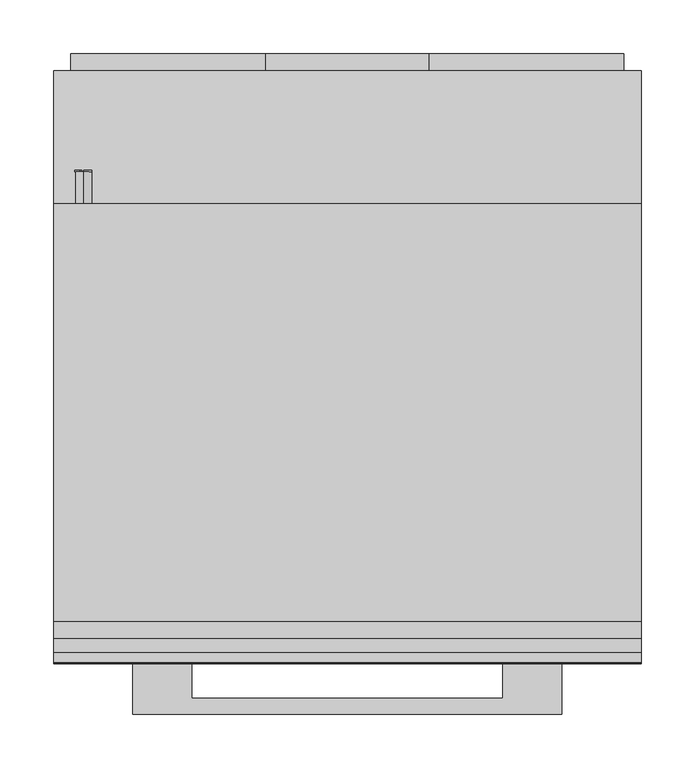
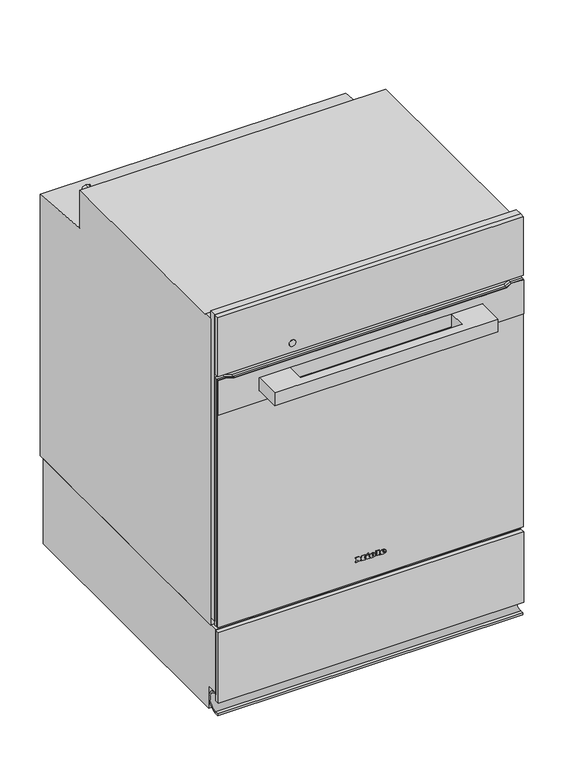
"""IFC4 building model written with IfcOpenShell, lengths in millimetres: proxy geometry, 11790260_CH_DGC7450-55_EDST-CLS : 22745092_CH_11790260_DGC7450-55_EDST-CLS."""

import ifcopenshell
import ifcopenshell.guid

model = None  # the IFC model being written
_history = None  # IfcOwnerHistory: only IFC2X3 demands one
_inside = {}  # id of a spatial element -> (the spatial element, [elements in it])
_under = {}  # id of a project, library or spatial element -> (it, [spatial elements below it])
_declared = {}  # id of a project -> (the project, [libraries it declares])
_typed = {}  # id of a type object -> (the type object, [elements of that type])
_made_of = {}  # id of a material, layer set ... -> (it, [elements and type objects made of it])


def new_model(schema):
    """Start an empty IFC model of exactly this schema.

    Asked for "IFC4X3", IfcOpenShell would pick the latest addendum, in which some entities
    have other attributes; the version numbers below select the first issue.
    IFC2X3 requires an IfcOwnerHistory on every rooted entity: one is made here for all.
    """
    global model, _history
    if schema == "IFC4X3":
        model = ifcopenshell.file(schema_version=(4, 3, 0, 0))
    else:
        model = ifcopenshell.file(schema=schema)
    _inside.clear()
    _under.clear()
    _declared.clear()
    _typed.clear()
    _made_of.clear()
    _history = None
    if model.schema == "IFC2X3":
        org = make("IfcOrganization", Name="unknown")
        user = make(
            "IfcPersonAndOrganization",
            ThePerson=make("IfcPerson", FamilyName="unknown"),
            TheOrganization=org,
        )
        app = make(
            "IfcApplication",
            ApplicationDeveloper=org,
            Version="unknown",
            ApplicationFullName="unknown",
            ApplicationIdentifier="unknown",
        )
        _history = make(
            "IfcOwnerHistory",
            OwningUser=user,
            OwningApplication=app,
            ChangeAction="ADDED",
            CreationDate=0,
        )
    return model


def make(cls, **values):
    """One entity of the class cls with the attributes given. An attribute that is None is left unset."""
    return model.create_entity(
        cls, **{name: value for name, value in values.items() if value is not None}
    )


def rooted(cls, **values):
    """An entity with a GlobalId (a new one), such as an element, a storey or a relation."""
    return make(cls, GlobalId=ifcopenshell.guid.new(), OwnerHistory=_history, **values)


def si_unit(unit_type, name, prefix=None):
    """IfcSIUnit, for example si_unit("LENGTHUNIT", "METRE", prefix="MILLI")."""
    return make("IfcSIUnit", UnitType=unit_type, Prefix=prefix, Name=name)


def assignment(units):
    """IfcUnitAssignment: the units of a project."""
    return None if units is None else make("IfcUnitAssignment", Units=units)


def point(xyz):
    """IfcCartesianPoint."""
    return None if xyz is None else make("IfcCartesianPoint", Coordinates=xyz)


def direction(xyz):
    """IfcDirection."""
    return None if xyz is None else make("IfcDirection", DirectionRatios=xyz)


def frame(location, z_axis=None, x_axis=None):
    """IfcAxis2Placement3D, a coordinate frame: its origin and axes. An axis left out is left unset."""
    return make(
        "IfcAxis2Placement3D",
        Location=point(location),
        Axis=direction(z_axis),
        RefDirection=direction(x_axis),
    )


def frame_2d(location, x_axis=None):
    """IfcAxis2Placement2D, a coordinate frame in the plane: its origin and x axis."""
    return make(
        "IfcAxis2Placement2D", Location=point(location), RefDirection=direction(x_axis)
    )


def origin():
    """The frame at (0, 0, 0) with its axes left unset."""
    return frame((0.0, 0.0, 0.0))


def place(relative_to, where):
    """IfcLocalPlacement: puts the frame where relative to a parent placement (None: the world)."""
    return make(
        "IfcLocalPlacement", PlacementRelTo=relative_to, RelativePlacement=where
    )


def context(
    kind, dimensions, precision=None, world=None, true_north=None, identifier=None
):
    """IfcGeometricRepresentationContext, for example the 3D "Model" context."""
    return make(
        "IfcGeometricRepresentationContext",
        ContextIdentifier=identifier,
        ContextType=kind,
        CoordinateSpaceDimension=dimensions,
        Precision=precision,
        WorldCoordinateSystem=world,
        TrueNorth=true_north,
    )


def project(units=None, contexts=None):
    """IfcProject with its units and contexts."""
    return rooted(
        "IfcProject",
        Name="project",
        RepresentationContexts=contexts,
        UnitsInContext=assignment(units),
    )


def spatial(cls, under=None, at=None, **own):
    """A site, building, storey or space (cls), placed at a placement, below another one or the project."""
    s = rooted(cls, ObjectPlacement=at, **own)
    if under is not None:
        _under.setdefault(under.id(), (under, []))[1].append(s)
    return s


def polyline(points):
    """IfcPolyline through the points."""
    return make("IfcPolyline", Points=[point(p) for p in points])


def circle_curve(where, radius):
    """IfcCircle in the frame where."""
    return make("IfcCircle", Position=where, Radius=radius)


def ellipse_curve(where, semi_axis1, semi_axis2):
    """IfcEllipse in the frame where."""
    return make(
        "IfcEllipse", Position=where, SemiAxis1=semi_axis1, SemiAxis2=semi_axis2
    )


def trimmed(basis, trim1, trim2, sense, master):
    """IfcTrimmedCurve: the piece of a basis curve between two trims."""
    return make(
        "IfcTrimmedCurve",
        BasisCurve=basis,
        Trim1=trim1,
        Trim2=trim2,
        SenseAgreement=sense,
        MasterRepresentation=master,
    )


def segment(curve, same_sense, transition):
    """IfcCompositeCurveSegment."""
    return make(
        "IfcCompositeCurveSegment",
        Transition=transition,
        SameSense=same_sense,
        ParentCurve=curve,
    )


def composite_curve(segments, self_intersect=None):
    """IfcCompositeCurve: segments joined end to end."""
    return make("IfcCompositeCurve", Segments=segments, SelfIntersect=self_intersect)


def outline(outer, holes=None, kind="AREA"):
    """IfcArbitraryClosedProfileDef: a profile drawn as a closed curve; with holes, ...WithVoids."""
    if holes is None:
        return make("IfcArbitraryClosedProfileDef", ProfileType=kind, OuterCurve=outer)
    return make(
        "IfcArbitraryProfileDefWithVoids",
        ProfileType=kind,
        OuterCurve=outer,
        InnerCurves=holes,
    )


def extrude(swept, where, along, depth):
    """IfcExtrudedAreaSolid: the profile swept, set in the frame where, extruded along a direction by depth."""
    return make(
        "IfcExtrudedAreaSolid",
        SweptArea=swept,
        Position=where,
        ExtrudedDirection=direction(along),
        Depth=depth,
    )


def faces_of(points, faces, orient=None, outer=None):
    """IfcFace entities. A face is a list of loops; a loop is a list of indices into points, from 0.

    orient and outer hold one flag for each loop. By default every Orientation is true, the
    first loop of a face is its IfcFaceOuterBound and the others are IfcFaceBound.
    """
    made = []
    for i, loops in enumerate(faces):
        bounds = []
        for j, loop in enumerate(loops):
            is_outer = j == 0 if outer is None else outer[i][j]
            bounds.append(
                make(
                    "IfcFaceOuterBound" if is_outer else "IfcFaceBound",
                    Bound=make("IfcPolyLoop", Polygon=[points[k] for k in loop]),
                    Orientation=True if orient is None else orient[i][j],
                )
            )
        made.append(make("IfcFace", Bounds=bounds))
    return made


def faceted_brep(points, faces, orient=None, outer=None, voids=None):
    """IfcFacetedBrep: a solid bounded by flat faces; with voids (closed shells), ...WithVoids."""
    shared = [point(p) for p in points]
    hull = make("IfcClosedShell", CfsFaces=faces_of(shared, faces, orient, outer))
    if voids is None:
        return make("IfcFacetedBrep", Outer=hull)
    return make(
        "IfcFacetedBrepWithVoids",
        Outer=hull,
        Voids=[
            make(cls, CfsFaces=faces_of(shared, fs, o, b)) for cls, fs, o, b in voids
        ],
    )


def shape(context_of_items, identifier, shape_type, items):
    """IfcShapeRepresentation: the items that make up one representation, for example the "Body"."""
    return make(
        "IfcShapeRepresentation",
        ContextOfItems=context_of_items,
        RepresentationIdentifier=identifier,
        RepresentationType=shape_type,
        Items=items,
    )


def source(mapping_origin, context_of_items, identifier, shape_type, items):
    """IfcRepresentationMap: a shape defined once, which mapped items show again and again."""
    return make(
        "IfcRepresentationMap",
        MappingOrigin=mapping_origin,
        MappedRepresentation=shape(context_of_items, identifier, shape_type, items),
    )


def transform(
    local_origin,
    x_axis=None,
    y_axis=None,
    z_axis=None,
    scale=None,
    scale2=None,
    scale3=None,
    uniform=True,
):
    """IfcCartesianTransformationOperator3D, or its non-uniform kind. x_axis, y_axis, z_axis: its Axis1, 2, 3."""
    if uniform:
        return make(
            "IfcCartesianTransformationOperator3D",
            Axis1=direction(x_axis),
            Axis2=direction(y_axis),
            LocalOrigin=point(local_origin),
            Scale=scale,
            Axis3=direction(z_axis),
        )
    return make(
        "IfcCartesianTransformationOperator3DnonUniform",
        Axis1=direction(x_axis),
        Axis2=direction(y_axis),
        LocalOrigin=point(local_origin),
        Scale=scale,
        Axis3=direction(z_axis),
        Scale2=scale2,
        Scale3=scale3,
    )


def mapped(mapping_source, mapping_target):
    """IfcMappedItem: shows the shape of a source again, moved by a transform."""
    return make(
        "IfcMappedItem", MappingSource=mapping_source, MappingTarget=mapping_target
    )


def made_of(thing, what):
    """Note that an element or type object is made of a material, layer set ...; save() writes the relation."""
    if what is not None:
        _made_of.setdefault(what.id(), (what, []))[1].append(thing)
    return thing


def element(
    cls,
    number,
    at=None,
    inside=None,
    cuts=None,
    type_object=None,
    material=None,
    context=None,
    identifier="Body",
    shape_type=None,
    held_by="IfcProductDefinitionShape",
    body=None,
    shapes=None,
    **own,
):
    """One element of the class cls, such as IfcWall. Its Tag is "e" and its number.

    at: its placement. inside: the storey or other place that contains it. cuts: it is an
    opening in that element (IfcRelVoidsElement). A single representation is given by context,
    identifier, shape_type and body (its items); several are given by shapes. held_by: the class
    of the entity that holds the representations. save() writes the other relations.
    """
    e = rooted(cls, Tag="e%d" % number, ObjectPlacement=at, **own)
    if body is not None:
        shapes = [shape(context, identifier, shape_type, body)]
    if shapes is not None:
        e.Representation = make(held_by, Representations=shapes)
    if inside is not None:
        _inside.setdefault(inside.id(), (inside, []))[1].append(e)
    if cuts is not None:
        rooted(
            "IfcRelVoidsElement", RelatingBuildingElement=cuts, RelatedOpeningElement=e
        )
    if type_object is not None:
        _typed.setdefault(type_object.id(), (type_object, []))[1].append(e)
    return made_of(e, material)


def aggregate(whole, parts):
    """IfcRelAggregates: a whole, such as a stair, and the parts it consists of."""
    return rooted("IfcRelAggregates", RelatingObject=whole, RelatedObjects=parts)


def save(model, path):
    """Write the relations noted so far, then the file.

    IfcRelAggregates (storeys below a building ...), IfcRelContainedInSpatialStructure (elements
    in a storey), IfcRelDefinesByType, IfcRelAssociatesMaterial and IfcRelDeclares: one each for
    every whole, place, type object, material and project.
    """
    for whole, parts in _under.values():
        aggregate(whole, parts)
    for where, things in _inside.values():
        rooted(
            "IfcRelContainedInSpatialStructure",
            RelatedElements=things,
            RelatingStructure=where,
        )
    for kind, things in _typed.values():
        rooted("IfcRelDefinesByType", RelatedObjects=things, RelatingType=kind)
    for what, things in _made_of.values():
        rooted("IfcRelAssociatesMaterial", RelatedObjects=things, RelatingMaterial=what)
    for by, libraries in _declared.values():
        rooted("IfcRelDeclares", RelatingContext=by, RelatedDefinitions=libraries)
    model.write(path)


def plane_surface(at):
    """IfcPlane: the flat surface through the origin of the frame at, square to its z axis."""
    return make("IfcPlane", Position=at)


def cylinder_surface(at, radius):
    """IfcCylindricalSurface: all points at the distance radius from the z axis of the frame at."""
    return make("IfcCylindricalSurface", Position=at, Radius=radius)


def revolved_surface(curve, axis_point, axis_direction):
    """IfcSurfaceOfRevolution: the curve turned about the line through axis_point along axis_direction."""
    return make(
        "IfcSurfaceOfRevolution",
        SweptCurve=make("IfcArbitraryOpenProfileDef", ProfileType="CURVE", Curve=curve),
        AxisPosition=make("IfcAxis1Placement", Location=point(axis_point), Axis=direction(axis_direction)),
    )


def extruded_surface(curve, direction_of_extrusion, depth):
    """IfcSurfaceOfLinearExtrusion: the curve pushed along a direction by depth."""
    return make(
        "IfcSurfaceOfLinearExtrusion",
        SweptCurve=make("IfcArbitraryOpenProfileDef", ProfileType="CURVE", Curve=curve),
        ExtrudedDirection=direction(direction_of_extrusion),
        Depth=depth,
    )


def advanced_brep(points, edges, surfaces, faces):
    """IfcAdvancedBrep: a solid bounded by faces that lie on surfaces and meet in shared edges.

    An edge is (start, end): straight between two places in points (the first is 0);
    or (start, end, curve); or (start, end, curve, False) where it runs against its curve.
    A face is (place in surfaces, loops), or (place, loops, False) where it looks against
    its surface's normal. A loop lists edges by number (the first is 1), with a minus sign
    where the edge is run from its end to its start. The first loop is the outer one.
    """
    corners = [point(p) for p in points]
    vertices = [make("IfcVertexPoint", VertexGeometry=c) for c in corners]
    made = []
    for start, end, *more in edges:
        made.append(
            make(
                "IfcEdgeCurve",
                EdgeStart=vertices[start],
                EdgeEnd=vertices[end],
                EdgeGeometry=more[0] if more else make("IfcPolyline", Points=[corners[start], corners[end]]),
                SameSense=more[1] if len(more) > 1 else True,
            )
        )
    hull = []
    for where, loops, *sense in faces:
        bounds = []
        for j, loop in enumerate(loops):
            ring = [make("IfcOrientedEdge", EdgeElement=made[abs(k) - 1], Orientation=k > 0) for k in loop]
            bounds.append(
                make(
                    "IfcFaceOuterBound" if j == 0 else "IfcFaceBound",
                    Bound=make("IfcEdgeLoop", EdgeList=ring),
                    Orientation=True,
                )
            )
        hull.append(make("IfcAdvancedFace", Bounds=bounds, FaceSurface=surfaces[where], SameSense=sense[0] if sense else True))
    return make("IfcAdvancedBrep", Outer=make("IfcClosedShell", CfsFaces=hull))


def specialty_equipment_7ac008b5(model_context):
    return source(origin(), model_context, "Body", "SolidModel", [
        extrude(outline(polyline([(-273.5, -15.3), (273.5, -15.3), (273.5, -23.3), (-273.5, -23.3), (-273.5, -15.3)])), frame((0.0, 0.0, 28.0), z_axis=(0.0, 0.0, 1.0), x_axis=(1.0, 0.0, 0.0)), (0.0, 0.0, 1.0), 133.5),
        extrude(outline(composite_curve([segment(polyline([(-15.3, 39.5), (-15.3, 42.0), (-13.3, 42.0)]), True, "CONTINUOUS"), segment(trimmed(circle_curve(frame_2d((-13.3, 23.0)), 19.0), [point((-13.3, 42.0))], [point((5.7, 23.0))], False, "CARTESIAN"), True, "CONTINUOUS"), segment(trimmed(circle_curve(frame_2d((-16.2470942, 23.0)), 21.9470942), [point((5.7, 23.0))], [point((2.0965309, 10.9506696))], False, "CARTESIAN"), True, "CONTINUOUS"), segment(trimmed(circle_curve(frame_2d((-13.3, 22.7225846)), 19.381206), [point((2.0965309, 10.9506696))], [point((-13.3, 3.3413786))], False, "CARTESIAN"), True, "CONTINUOUS"), segment(polyline([(-13.3, 3.3413786), (-21.3, 3.3413786), (-21.3, 6.5166751), (-13.9417749, 6.5166751)]), True, "CONTINUOUS"), segment(trimmed(circle_curve(frame_2d((-13.9417749, 23.0333249)), 16.5166498), [point((-13.9417749, 6.5166751))], [point((-12.6579007, 39.5))], True, "CARTESIAN"), True, "CONTINUOUS"), segment(polyline([(-12.6579007, 39.5), (-15.3, 39.5)]), True, "CONTINUOUS")], self_intersect=False)), frame((-273.5, 0.0, 0.0), z_axis=(1.0, 0.0, 0.0), x_axis=(0.0, 1.0, 0.0)), (0.0, 0.0, 1.0), 547.0),
        extrude(outline(polyline([(-15.3, 162.0), (520.7, 162.0), (520.7, 0.0), (6.7, 0.0), (6.7, 43.1784801), (-15.3, 43.1784801), (-15.3, 162.0)])), frame((-273.5, 0.0, 0.0), z_axis=(1.0, 0.0, 0.0), x_axis=(0.0, 1.0, 0.0)), (0.0, 0.0, 1.0), 547.0),
        advanced_brep(
        [(21.28, -23.0, 210.133), (21.28, -23.0, 211.042), (27.301, -23.0, 211.042), (16.825, -23.0, 211.042), (19.3, -23.0, 208.0), (27.148, -23.0, 210.133), (24.43, -23.0, 210.133), (22.288, -23.0, 209.125), (21.28, -23.0, 212.194), (21.28, -23.0, 213.175), (22.819, -23.0, 213.175), (22.819, -23.0, 212.194), (21.28, -22.0, 210.133), (22.288, -22.0, 209.125), (24.43, -22.0, 210.133), (27.148, -22.0, 210.133), (19.3, -22.0, 208.0), (16.825, -22.0, 211.042), (27.301, -22.0, 211.042), (21.28, -22.0, 211.042), (21.28, -22.0, 212.194), (22.819, -22.0, 212.194), (22.819, -22.0, 213.175), (21.28, -22.0, 213.175)],
        [
            (0, 1),
            (1, 2),
            (2, 3, ellipse_curve(frame((22.063, -23.0, 211.042), z_axis=(0.0, -1.0, 0.0), x_axis=(-1.0, 0.0, 0.0)), 5.238, 4.329)),
            (3, 4, circle_curve(frame((20.3080491, -23.0, 211.348), z_axis=(0.0, -1.0, 0.0), x_axis=(0.0, 0.0, -1.0)), 3.4964649)),
            (4, 5, circle_curve(frame((21.9581428, -23.0, 213.724), z_axis=(0.0, -1.0, 0.0), x_axis=(0.0, 0.0, -1.0)), 6.3110933)),
            (5, 6),
            (6, 7, circle_curve(frame((22.7279412, -23.0, 210.97), z_axis=(0.0, 1.0, 0.0), x_axis=(0.0, 0.0, -1.0)), 1.896727)),
            (7, 0, circle_curve(frame((22.288, -23.0, 210.133), z_axis=(0.0, 1.0, 0.0), x_axis=(0.0, 0.0, -1.0)), 1.008)),
            (8, 9),
            (9, 10, circle_curve(frame((22.0495, -23.0, 213.175), z_axis=(0.0, 1.0, 0.0), x_axis=(0.0, 0.0, -1.0)), 0.7695)),
            (10, 11),
            (11, 8),
            (12, 13, circle_curve(frame((22.288, -22.0, 210.133), z_axis=(0.0, -1.0, 0.0), x_axis=(0.0, 0.0, -1.0)), 1.008)),
            (13, 14, circle_curve(frame((22.7279412, -22.0, 210.97), z_axis=(0.0, -1.0, 0.0), x_axis=(0.0, 0.0, -1.0)), 1.896727)),
            (14, 15),
            (15, 16, circle_curve(frame((21.9581428, -22.0, 213.724), z_axis=(0.0, 1.0, 0.0), x_axis=(0.0, 0.0, -1.0)), 6.3110933)),
            (16, 17, circle_curve(frame((20.3080491, -22.0, 211.348), z_axis=(0.0, 1.0, 0.0), x_axis=(0.0, 0.0, -1.0)), 3.4964649)),
            (17, 18, ellipse_curve(frame((22.063, -22.0, 211.042), z_axis=(0.0, 1.0, 0.0), x_axis=(-1.0, 0.0, 0.0)), 5.238, 4.329)),
            (18, 19),
            (19, 12),
            (20, 21),
            (21, 22),
            (22, 23, circle_curve(frame((22.0495, -22.0, 213.175), z_axis=(0.0, -1.0, 0.0), x_axis=(0.0, 0.0, -1.0)), 0.7695)),
            (23, 20),
            (0, 12),
            (19, 1),
            (18, 2),
            (5, 15),
            (14, 6),
            (17, 3),
            (13, 7),
            (16, 4),
            (8, 20),
            (23, 9),
            (22, 10),
            (21, 11),
        ],
        [
            plane_surface(frame((21.28, -23.0, 211.042), z_axis=(0.0, -1.0, 0.0), x_axis=(0.0, 0.0, 1.0))),
            plane_surface(frame((21.28, -22.0, 211.042), z_axis=(0.0, 1.0, 0.0), x_axis=(0.0, 0.0, -1.0))),
            plane_surface(frame((21.28, -23.0, 210.133), z_axis=(1.0, 0.0, 0.0), x_axis=(0.0, 1.0, 0.0))),
            plane_surface(frame((21.28, -23.0, 211.042), z_axis=(0.0, 0.0, -1.0), x_axis=(0.0, 1.0, 0.0))),
            plane_surface(frame((27.148, -23.0, 210.133), z_axis=(0.0, 0.0, 1.0), x_axis=(0.0, 1.0, 0.0))),
            extruded_surface(trimmed(ellipse_curve(frame((22.063, -21.0, 211.042), z_axis=(0.0, -1.0, 0.0), x_axis=(-1.0, 0.0, 0.0)), 5.238, 4.329), [point((27.301, -21.0, 211.042))], [point((16.825, -21.0, 211.042))], True, "CARTESIAN"), (0.0, -1.0, 0.0), 1.0),
            revolved_surface(polyline([(22.7279412, -22.0, 209.073273), (22.7279412, -23.0, 209.073273)]), (22.7279412, -22.0, 210.97), (0.0, 1.0, 0.0)),
            revolved_surface(polyline([(22.288, -22.0, 209.125), (22.288, -23.0, 209.125)]), (22.288, -22.0, 210.133), (0.0, 1.0, 0.0)),
            cylinder_surface(frame((20.3080491, -22.0, 211.348), z_axis=(0.0, -1.0, 0.0), x_axis=(0.0, 0.0, -1.0)), 3.4964649),
            cylinder_surface(frame((21.9581428, -22.0, 213.724), z_axis=(0.0, -1.0, 0.0), x_axis=(0.0, 0.0, -1.0)), 6.3110933),
            plane_surface(frame((21.28, -23.0, 212.194), z_axis=(1.0, 0.0, 0.0), x_axis=(0.0, 1.0, 0.0))),
            revolved_surface(polyline([(22.0495, -22.0, 212.40550000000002), (22.0495, -23.0, 212.40550000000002)]), (22.0495, -22.0, 213.175), (0.0, 1.0, 0.0)),
            plane_surface(frame((22.819, -23.0, 213.175), z_axis=(-1.0, 0.0, 0.0), x_axis=(0.0, 1.0, 0.0))),
            plane_surface(frame((22.819, -23.0, 212.194), z_axis=(0.0, 0.0, 1.0), x_axis=(0.0, 1.0, 0.0))),
        ],
        [
            (0, [[1, 2, 3, 4, 5, 6, 7, 8], [9, 10, 11, 12]]),
            (1, [[13, 14, 15, 16, 17, 18, 19, 20], [21, 22, 23, 24]]),
            (2, [[-1, 25, -20, 26]]),
            (3, [[-2, -26, -19, 27]]),
            (4, [[-6, 28, -15, 29]]),
            (5, [[-3, -27, -18, 30]]),
            (6, [[-7, -29, -14, 31]]),
            (7, [[-8, -31, -13, -25]]),
            (8, [[-4, -30, -17, 32]]),
            (9, [[-5, -32, -16, -28]]),
            (10, [[-9, 33, -24, 34]]),
            (11, [[-10, -34, -23, 35]]),
            (12, [[-11, -35, -22, 36]]),
            (13, [[-12, -36, -21, -33]]),
        ],
    ),
        advanced_brep(
        [(2.497, -23.0, 210.133), (2.497, -23.0, 211.042), (8.518, -23.0, 211.042), (-1.958, -23.0, 211.042), (0.517, -23.0, 208.0), (8.365, -23.0, 210.133), (5.647, -23.0, 210.133), (3.505, -23.0, 209.125), (2.497, -23.0, 212.194), (2.497, -23.0, 213.175), (4.036, -23.0, 213.175), (4.036, -23.0, 212.194), (2.497, -22.0, 210.133), (3.505, -22.0, 209.125), (5.647, -22.0, 210.133), (8.365, -22.0, 210.133), (0.517, -22.0, 208.0), (-1.958, -22.0, 211.042), (8.518, -22.0, 211.042), (2.497, -22.0, 211.042), (2.497, -22.0, 212.194), (4.036, -22.0, 212.194), (4.036, -22.0, 213.175), (2.497, -22.0, 213.175)],
        [
            (0, 1),
            (1, 2),
            (2, 3, ellipse_curve(frame((3.28, -23.0, 211.042), z_axis=(0.0, -1.0, 0.0), x_axis=(-1.0, 0.0, 0.0)), 5.238, 4.329)),
            (3, 4, circle_curve(frame((1.5250491, -23.0, 211.348), z_axis=(0.0, -1.0, 0.0), x_axis=(0.0, 0.0, -1.0)), 3.4964649)),
            (4, 5, circle_curve(frame((3.1751428, -23.0, 213.724), z_axis=(0.0, -1.0, 0.0), x_axis=(0.0, 0.0, -1.0)), 6.3110933)),
            (5, 6),
            (6, 7, circle_curve(frame((3.9449412, -23.0, 210.97), z_axis=(0.0, 1.0, 0.0), x_axis=(0.0, 0.0, -1.0)), 1.896727)),
            (7, 0, circle_curve(frame((3.505, -23.0, 210.133), z_axis=(0.0, 1.0, 0.0), x_axis=(0.0, 0.0, -1.0)), 1.008)),
            (8, 9),
            (9, 10, circle_curve(frame((3.2665, -23.0, 213.175), z_axis=(0.0, 1.0, 0.0), x_axis=(0.0, 0.0, -1.0)), 0.7695)),
            (10, 11),
            (11, 8),
            (12, 13, circle_curve(frame((3.505, -22.0, 210.133), z_axis=(0.0, -1.0, 0.0), x_axis=(0.0, 0.0, -1.0)), 1.008)),
            (13, 14, circle_curve(frame((3.9449412, -22.0, 210.97), z_axis=(0.0, -1.0, 0.0), x_axis=(0.0, 0.0, -1.0)), 1.896727)),
            (14, 15),
            (15, 16, circle_curve(frame((3.1751428, -22.0, 213.724), z_axis=(0.0, 1.0, 0.0), x_axis=(0.0, 0.0, -1.0)), 6.3110933)),
            (16, 17, circle_curve(frame((1.5250491, -22.0, 211.348), z_axis=(0.0, 1.0, 0.0), x_axis=(0.0, 0.0, -1.0)), 3.4964649)),
            (17, 18, ellipse_curve(frame((3.28, -22.0, 211.042), z_axis=(0.0, 1.0, 0.0), x_axis=(-1.0, 0.0, 0.0)), 5.238, 4.329)),
            (18, 19),
            (19, 12),
            (20, 21),
            (21, 22),
            (22, 23, circle_curve(frame((3.2665, -22.0, 213.175), z_axis=(0.0, -1.0, 0.0), x_axis=(0.0, 0.0, -1.0)), 0.7695)),
            (23, 20),
            (0, 12),
            (19, 1),
            (18, 2),
            (5, 15),
            (14, 6),
            (17, 3),
            (13, 7),
            (16, 4),
            (8, 20),
            (23, 9),
            (22, 10),
            (21, 11),
        ],
        [
            plane_surface(frame((2.497, -23.0, 211.042), z_axis=(0.0, -1.0, 0.0), x_axis=(0.0, 0.0, 1.0))),
            plane_surface(frame((2.497, -22.0, 211.042), z_axis=(0.0, 1.0, 0.0), x_axis=(0.0, 0.0, -1.0))),
            plane_surface(frame((2.497, -23.0, 210.133), z_axis=(1.0, 0.0, 0.0), x_axis=(0.0, 1.0, 0.0))),
            plane_surface(frame((2.497, -23.0, 211.042), z_axis=(0.0, 0.0, -1.0), x_axis=(0.0, 1.0, 0.0))),
            plane_surface(frame((8.365, -23.0, 210.133), z_axis=(0.0, 0.0, 1.0), x_axis=(0.0, 1.0, 0.0))),
            extruded_surface(trimmed(ellipse_curve(frame((3.28, -21.0, 211.042), z_axis=(0.0, -1.0, 0.0), x_axis=(-1.0, 0.0, 0.0)), 5.238, 4.329), [point((8.518, -21.0, 211.042))], [point((-1.958, -21.0, 211.042))], True, "CARTESIAN"), (0.0, -1.0, 0.0), 1.0),
            revolved_surface(polyline([(3.9449412, -22.0, 209.073273), (3.9449412, -23.0, 209.073273)]), (3.9449412, -22.0, 210.97), (0.0, 1.0, 0.0)),
            revolved_surface(polyline([(3.505, -22.0, 209.125), (3.505, -23.0, 209.125)]), (3.505, -22.0, 210.133), (0.0, 1.0, 0.0)),
            cylinder_surface(frame((1.5250491, -22.0, 211.348), z_axis=(0.0, -1.0, 0.0), x_axis=(0.0, 0.0, -1.0)), 3.4964649),
            cylinder_surface(frame((3.1751428, -22.0, 213.724), z_axis=(0.0, -1.0, 0.0), x_axis=(0.0, 0.0, -1.0)), 6.3110933),
            plane_surface(frame((2.497, -23.0, 212.194), z_axis=(1.0, 0.0, 0.0), x_axis=(0.0, 1.0, 0.0))),
            revolved_surface(polyline([(3.2665, -22.0, 212.40550000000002), (3.2665, -23.0, 212.40550000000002)]), (3.2665, -22.0, 213.175), (0.0, 1.0, 0.0)),
            plane_surface(frame((4.036, -23.0, 213.175), z_axis=(-1.0, 0.0, 0.0), x_axis=(0.0, 1.0, 0.0))),
            plane_surface(frame((4.036, -23.0, 212.194), z_axis=(0.0, 0.0, 1.0), x_axis=(0.0, 1.0, 0.0))),
        ],
        [
            (0, [[1, 2, 3, 4, 5, 6, 7, 8], [9, 10, 11, 12]]),
            (1, [[13, 14, 15, 16, 17, 18, 19, 20], [21, 22, 23, 24]]),
            (2, [[-1, 25, -20, 26]]),
            (3, [[-2, -26, -19, 27]]),
            (4, [[-6, 28, -15, 29]]),
            (5, [[-3, -27, -18, 30]]),
            (6, [[-7, -29, -14, 31]]),
            (7, [[-8, -31, -13, -25]]),
            (8, [[-4, -30, -17, 32]]),
            (9, [[-5, -32, -16, -28]]),
            (10, [[-9, 33, -24, 34]]),
            (11, [[-10, -34, -23, 35]]),
            (12, [[-11, -35, -22, 36]]),
            (13, [[-12, -36, -21, -33]]),
        ],
    ),
        extrude(outline(polyline([(216.469, -7.34), (215.011, -6.656), (216.433, -3.605), (217.891, -4.28), (216.469, -7.34)])), frame((0.0, -23.0, 0.0), z_axis=(0.0, 1.0, 0.0), x_axis=(0.0, 0.0, 1.0)), (0.0, 0.0, 1.0), 1.0),
        extrude(outline(polyline([(214.813, -9.563), (213.202, -9.563), (213.202, -8.492), (209.512, -8.492), (209.512, -9.563), (208.0, -9.563), (208.0, -2.462), (209.512, -2.462), (209.512, -3.506), (214.813, -3.506), (214.813, -9.563)])), frame((0.0, -23.0, 0.0), z_axis=(0.0, 1.0, 0.0), x_axis=(0.0, 0.0, 1.0)), (0.0, 0.0, 1.0), 1.0),
        extrude(outline(polyline([(215.533, 9.022), (215.533, 10.102), (209.512, 10.102), (209.512, 9.022), (208.0, 9.022), (208.0, 16.321), (209.512, 16.321), (209.512, 15.214), (217.0, 15.214), (217.0, 9.022), (215.533, 9.022)])), frame((0.0, -23.0, 0.0), z_axis=(0.0, 1.0, 0.0), x_axis=(0.0, 0.0, 1.0)), (0.0, 0.0, 1.0), 1.0),
        extrude(outline(polyline([(215.533, -27.5), (215.533, -26.411), (209.512, -26.411), (209.512, -27.5), (208.0, -27.5), (208.0, -23.54), (209.512, -23.54), (209.512, -24.62), (213.3341247, -24.62), (208.0, -20.597), (213.4402223, -16.556), (209.512, -16.556), (209.512, -17.663), (208.0, -17.663), (208.0, -10.481), (209.512, -10.481), (209.512, -11.624), (215.533, -11.624), (215.533, -10.481), (217.0, -10.481), (217.0, -15.962), (213.625, -18.59), (217.0, -21.227), (217.0, -27.5), (215.533, -27.5)])), frame((0.0, -23.0, 0.0), z_axis=(0.0, 1.0, 0.0), x_axis=(0.0, 0.0, 1.0)), (0.0, 0.0, 1.0), 1.0),
        extrude(outline(polyline([(-200.0, -70.3), (-200.0, -22.0), (-145.0, -22.0), (-145.0, -55.3), (145.0, -55.3), (145.0, -22.0), (200.0, -22.0), (200.0, -70.3), (-200.0, -70.3)])), frame((0.0, 0.0, 595.0), z_axis=(0.0, 0.0, 1.0), x_axis=(1.0, 0.0, 0.0)), (0.0, 0.0, 1.0), 24.0),
        extrude(outline(polyline([(639.5, -274.0), (170.0, -274.0), (170.0, 274.0), (639.5, 274.0), (639.5, 252.5209298), (634.5, 244.0), (634.5, -244.0), (639.5, -260.3542631), (639.5, -274.0)])), frame((0.0, -22.0, 0.0), z_axis=(0.0, 1.0, 0.0), x_axis=(0.0, 0.0, 1.0)), (0.0, 0.0, 1.0), 4.0),
        extrude(outline(polyline([(639.5, -274.0), (574.5, -274.0), (574.5, 274.0), (639.5, 274.0), (639.5, 252.5209298), (634.5, 244.0), (634.5, -244.0), (639.5, -260.3542631), (639.5, -274.0)]), holes=[polyline([(619.5, -200.5), (619.5, 200.5), (594.5, 200.5), (594.5, -200.5), (619.5, -200.5)])]), frame((0.0, -23.3, 0.0), z_axis=(0.0, 1.0, 0.0), x_axis=(0.0, 0.0, 1.0)), (0.0, 0.0, 1.0), 1.3),
        extrude(outline(polyline([(639.5, -274.0), (170.0, -274.0), (170.0, 274.0), (639.5, 274.0), (639.5, 252.5209298), (634.5, 244.0), (634.5, -244.0), (639.5, -260.3542631), (639.5, -274.0)])), frame((0.0, -18.0, 0.0), z_axis=(0.0, 1.0, 0.0), x_axis=(0.0, 0.0, 1.0)), (0.0, 0.0, 1.0), 5.0),
        extrude(outline(polyline([(274.0, -22.0), (-274.0, -22.0), (-274.0, -13.0), (274.0, -13.0), (274.0, -22.0)])), frame((0.0, 0.0, 646.5), z_axis=(0.0, 0.0, 1.0), x_axis=(1.0, 0.0, 0.0)), (0.0, 0.0, 1.0), 111.5),
        extrude(outline(composite_curve([segment(trimmed(circle_curve(frame_2d((663.5, -140.5745637)), 6.0), [point((663.5, -146.5745637))], [point((663.5, -134.5745637))], False, "CARTESIAN"), True, "CONTINUOUS"), segment(trimmed(circle_curve(frame_2d((663.5, -140.5745637)), 6.0), [point((663.5, -134.5745637))], [point((663.5, -146.5745637))], False, "CARTESIAN"), True, "CONTINUOUS")], self_intersect=False)), frame((0.0, -22.5, 0.0), z_axis=(0.0, 1.0, 0.0), x_axis=(0.0, 0.0, 1.0)), (0.0, 0.0, 1.0), 1.0),
        extrude(outline(polyline([(720.0464496, -245.8425503), (718.7915157, -245.8425503), (718.7915157, -239.8786472), (715.8088265, -239.8786472), (715.8088265, -245.5253567), (714.5510117, -245.5253567), (714.5510117, -239.8786472), (711.2605911, -239.8786472), (711.2605911, -245.9946301), (709.9978772, -245.9946301), (709.9978772, -238.6251477), (720.0464496, -238.6251477), (720.0464496, -245.8425503)])), frame((0.0, 436.0, 0.0), z_axis=(0.0, 1.0, 0.0), x_axis=(0.0, 0.0, 1.0)), (0.0, 0.0, 1.0), 1.0),
        extrude(outline(polyline([(720.0498619, -249.1372374), (711.2558696, -249.1372374), (711.2558696, -254.1557124), (710.0011788, -254.1557124), (710.0011788, -247.8766443), (720.0498619, -247.8766443), (720.0498619, -249.1372374)])), frame((0.0, 436.0, 0.0), z_axis=(0.0, 1.0, 0.0), x_axis=(0.0, 0.0, 1.0)), (0.0, 0.0, 1.0), 1.0),
        extrude(outline(composite_curve([segment(trimmed(circle_curve(frame_2d((715.0, -246.0)), 7.5), [point((707.5, -246.0))], [point((722.5, -246.0))], False, "CARTESIAN"), True, "CONTINUOUS"), segment(trimmed(circle_curve(frame_2d((715.0, -246.0)), 7.5), [point((722.5, -246.0))], [point((707.5, -246.0))], False, "CARTESIAN"), True, "CONTINUOUS")], self_intersect=False)), frame((0.0, 406.0, 0.0), z_axis=(0.0, 1.0, 0.0), x_axis=(0.0, 0.0, 1.0)), (0.0, 0.0, 1.0), 30.0),
        faceted_brep([(272.0, 25.0, 646.0), (-272.0, 25.0, 646.0), (-272.0, 25.0, 177.0), (272.0, 25.0, 177.0), (-235.0, 25.0, 590.0), (235.0, 25.0, 590.0), (235.0, 25.0, 204.0), (-235.0, 25.0, 204.0), (272.0, 0.0, 646.0), (-272.0, 0.0, 646.0), (-272.0, 0.0, 177.0), (272.0, 0.0, 177.0), (274.0, 0.0, 162.0), (274.0, 530.0, 162.0), (274.0, 530.0, 657.3998186), (274.0, 406.0, 668.2484129), (274.0, 406.0, 740.0), (274.0, 16.0, 740.0), (274.0, 16.0, 743.0), (274.0, 0.0, 743.0), (-274.0, 0.0, 162.0), (-274.0, 0.0, 743.0), (-274.0, 16.0, 743.0), (-274.0, 16.0, 740.0), (-274.0, 406.0, 740.0), (-274.0, 406.0, 668.2484129), (-274.0, 530.0, 657.3998186), (-274.0, 530.0, 162.0), (235.0, 433.0, 590.0), (-235.0, 433.0, 590.0), (-235.0, 433.0, 204.0), (235.0, 433.0, 204.0)], [[[0, 1, 2, 3], [4, 5, 6, 7]], [[1, 0, 8, 9]], [[2, 1, 9, 10]], [[0, 3, 11, 8]], [[12, 13, 14, 15, 16, 17, 18, 19]], [[20, 21, 22, 23, 24, 25, 26, 27]], [[13, 12, 20, 27]], [[13, 27, 26, 14]], [[23, 17, 16, 24]], [[12, 19, 21, 20], [9, 8, 11, 10]], [[28, 29, 30, 31]], [[29, 28, 5, 4]], [[30, 29, 4, 7]], [[31, 30, 7, 6]], [[28, 31, 6, 5]], [[3, 2, 10, 11]], [[18, 17, 23, 22]], [[19, 18, 22, 21]], [[15, 25, 24, 16]], [[25, 15, 14, 26]]]),
        extrude(outline(polyline([(504.5, 76.0), (545.5, 76.0), (545.5, -76.0), (504.5, -76.0), (504.5, -258.0), (362.5, -258.0), (362.5, -76.0), (321.5, -76.0), (321.5, 76.0), (362.5, 76.0), (362.5, 258.0), (504.5, 258.0), (504.5, 76.0)])), frame((0.0, 530.0, 0.0), z_axis=(0.0, 1.0, 0.0), x_axis=(0.0, 0.0, 1.0)), (0.0, 0.0, 1.0), 16.0),
        extrude(outline(polyline([(177.0, 274.0), (758.0, 274.0), (758.0, -274.0), (177.0, -274.0), (177.0, -272.0), (646.0, -272.0), (646.0, 272.0), (177.0, 272.0), (177.0, 274.0)])), frame((0.0, -13.0, 0.0), z_axis=(0.0, 1.0, 0.0), x_axis=(0.0, 0.0, 1.0)), (0.0, 0.0, 1.0), 13.0),
    ])


if __name__ == "__main__":
    model = new_model("IFC4")
    model_context = context("Model", 3, world=origin())
    ifc_project = project(units=[si_unit("LENGTHUNIT", "METRE", prefix="MILLI")], contexts=[model_context])
    site = spatial("IfcSite", under=ifc_project)
    building = spatial("IfcBuilding", under=site)
    placement = place(None, origin())
    specialty_equipment_shape = specialty_equipment_7ac008b5(model_context)
    element("IfcBuildingElementProxy", 1, Name="11790260_CH_DGC7450-55_EDST-CLS : 22745092_CH_11790260_DGC7450-55_EDST-CLS", ObjectType="11790260_CH_DGC7450-55_EDST-CLS : 22745092_CH_11790260_DGC7450-55_EDST-CLS", at=placement, inside=building, context=model_context, shape_type="MappedRepresentation", body=[
        mapped(specialty_equipment_shape, transform((0.0, 0.0, 0.0), x_axis=(1.0, 0.0, 0.0), y_axis=(0.0, 1.0, 0.0), z_axis=(0.0, 0.0, 1.0))),
    ])
    save(model, "model.ifc")
